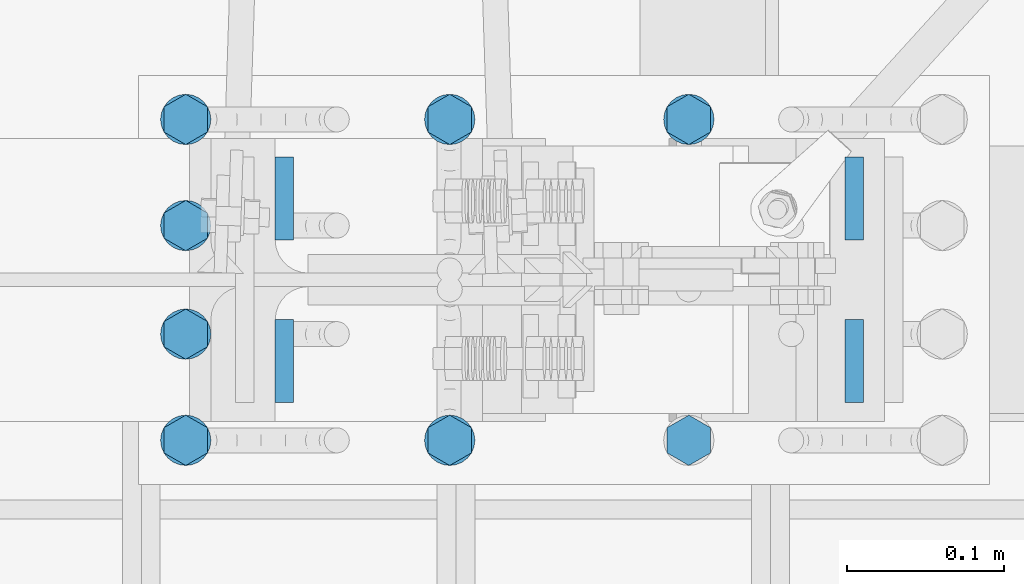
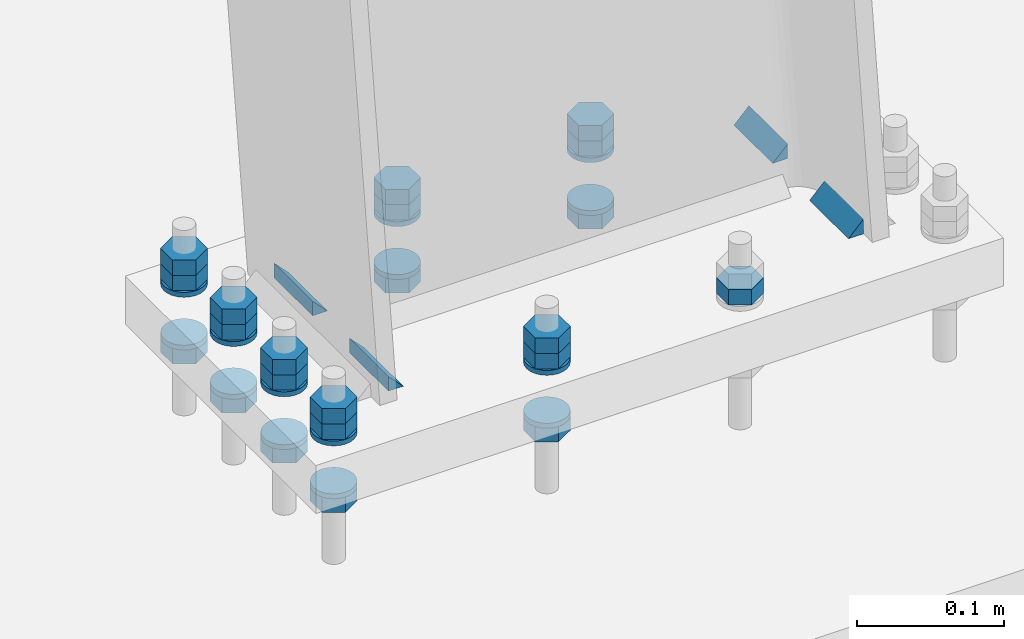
# One storey, part 26 of 72: 36 mechanical fasteners, 8 fasteners.
"""IFC4 building model written with IfcOpenShell, lengths in metres."""

import ifcopenshell
import ifcopenshell.guid

model = None  # the IFC model being written
_history = None  # IfcOwnerHistory: only IFC2X3 demands one
_inside = {}  # id of a spatial element -> (the spatial element, [elements in it])
_under = {}  # id of a project, library or spatial element -> (it, [spatial elements below it])
_declared = {}  # id of a project -> (the project, [libraries it declares])
_typed = {}  # id of a type object -> (the type object, [elements of that type])
_made_of = {}  # id of a material, layer set ... -> (it, [elements and type objects made of it])


def new_model(schema):
    """Start an empty IFC model of exactly this schema.

    Asked for "IFC4X3", IfcOpenShell would pick the latest addendum, in which some entities
    have other attributes; the version numbers below select the first issue.
    IFC2X3 requires an IfcOwnerHistory on every rooted entity: one is made here for all.
    """
    global model, _history
    if schema == "IFC4X3":
        model = ifcopenshell.file(schema_version=(4, 3, 0, 0))
    else:
        model = ifcopenshell.file(schema=schema)
    _inside.clear()
    _under.clear()
    _declared.clear()
    _typed.clear()
    _made_of.clear()
    _history = None
    if model.schema == "IFC2X3":
        org = make("IfcOrganization", Name="unknown")
        user = make(
            "IfcPersonAndOrganization",
            ThePerson=make("IfcPerson", FamilyName="unknown"),
            TheOrganization=org,
        )
        app = make(
            "IfcApplication",
            ApplicationDeveloper=org,
            Version="unknown",
            ApplicationFullName="unknown",
            ApplicationIdentifier="unknown",
        )
        _history = make(
            "IfcOwnerHistory",
            OwningUser=user,
            OwningApplication=app,
            ChangeAction="ADDED",
            CreationDate=0,
        )
    return model


def make(cls, **values):
    """One entity of the class cls with the attributes given. An attribute that is None is left unset."""
    return model.create_entity(
        cls, **{name: value for name, value in values.items() if value is not None}
    )


def rooted(cls, **values):
    """An entity with a GlobalId (a new one), such as an element, a storey or a relation."""
    return make(cls, GlobalId=ifcopenshell.guid.new(), OwnerHistory=_history, **values)


def si_unit(unit_type, name, prefix=None):
    """IfcSIUnit, for example si_unit("LENGTHUNIT", "METRE", prefix="MILLI")."""
    return make("IfcSIUnit", UnitType=unit_type, Prefix=prefix, Name=name)


def assignment(units):
    """IfcUnitAssignment: the units of a project."""
    return None if units is None else make("IfcUnitAssignment", Units=units)


def point(xyz):
    """IfcCartesianPoint."""
    return None if xyz is None else make("IfcCartesianPoint", Coordinates=xyz)


def direction(xyz):
    """IfcDirection."""
    return None if xyz is None else make("IfcDirection", DirectionRatios=xyz)


def frame(location, z_axis=None, x_axis=None):
    """IfcAxis2Placement3D, a coordinate frame: its origin and axes. An axis left out is left unset."""
    return make(
        "IfcAxis2Placement3D",
        Location=point(location),
        Axis=direction(z_axis),
        RefDirection=direction(x_axis),
    )


def origin_with_axes():
    """The frame at (0, 0, 0) with the z axis (0, 0, 1) and the x axis (1, 0, 0) written out."""
    return frame((0.0, 0.0, 0.0), z_axis=(0.0, 0.0, 1.0), x_axis=(1.0, 0.0, 0.0))


def place(relative_to, where):
    """IfcLocalPlacement: puts the frame where relative to a parent placement (None: the world)."""
    return make(
        "IfcLocalPlacement", PlacementRelTo=relative_to, RelativePlacement=where
    )


def context(
    kind, dimensions, precision=None, world=None, true_north=None, identifier=None
):
    """IfcGeometricRepresentationContext, for example the 3D "Model" context."""
    return make(
        "IfcGeometricRepresentationContext",
        ContextIdentifier=identifier,
        ContextType=kind,
        CoordinateSpaceDimension=dimensions,
        Precision=precision,
        WorldCoordinateSystem=world,
        TrueNorth=true_north,
    )


def project(units=None, contexts=None):
    """IfcProject with its units and contexts."""
    return rooted(
        "IfcProject",
        Name="project",
        RepresentationContexts=contexts,
        UnitsInContext=assignment(units),
    )


def spatial(cls, under=None, at=None, **own):
    """A site, building, storey or space (cls), placed at a placement, below another one or the project."""
    s = rooted(cls, ObjectPlacement=at, **own)
    if under is not None:
        _under.setdefault(under.id(), (under, []))[1].append(s)
    return s


def polyline(points):
    """IfcPolyline through the points."""
    return make("IfcPolyline", Points=[point(p) for p in points])


def outline(outer, holes=None, kind="AREA"):
    """IfcArbitraryClosedProfileDef: a profile drawn as a closed curve; with holes, ...WithVoids."""
    if holes is None:
        return make("IfcArbitraryClosedProfileDef", ProfileType=kind, OuterCurve=outer)
    return make(
        "IfcArbitraryProfileDefWithVoids",
        ProfileType=kind,
        OuterCurve=outer,
        InnerCurves=holes,
    )


def extrude(swept, where, along, depth):
    """IfcExtrudedAreaSolid: the profile swept, set in the frame where, extruded along a direction by depth."""
    return make(
        "IfcExtrudedAreaSolid",
        SweptArea=swept,
        Position=where,
        ExtrudedDirection=direction(along),
        Depth=depth,
    )


def shape(context_of_items, identifier, shape_type, items):
    """IfcShapeRepresentation: the items that make up one representation, for example the "Body"."""
    return make(
        "IfcShapeRepresentation",
        ContextOfItems=context_of_items,
        RepresentationIdentifier=identifier,
        RepresentationType=shape_type,
        Items=items,
    )


def made_of(thing, what):
    """Note that an element or type object is made of a material, layer set ...; save() writes the relation."""
    if what is not None:
        _made_of.setdefault(what.id(), (what, []))[1].append(thing)
    return thing


def type_object(cls, material=None, **own):
    """A type object (cls), such as IfcWallType, which elements share."""
    return made_of(rooted(cls, **own), material)


def element(
    cls,
    number,
    at=None,
    inside=None,
    cuts=None,
    type_object=None,
    material=None,
    context=None,
    identifier="Body",
    shape_type=None,
    held_by="IfcProductDefinitionShape",
    body=None,
    shapes=None,
    **own,
):
    """One element of the class cls, such as IfcWall. Its Tag is "e" and its number.

    at: its placement. inside: the storey or other place that contains it. cuts: it is an
    opening in that element (IfcRelVoidsElement). A single representation is given by context,
    identifier, shape_type and body (its items); several are given by shapes. held_by: the class
    of the entity that holds the representations. save() writes the other relations.
    """
    e = rooted(cls, Tag="e%d" % number, ObjectPlacement=at, **own)
    if body is not None:
        shapes = [shape(context, identifier, shape_type, body)]
    if shapes is not None:
        e.Representation = make(held_by, Representations=shapes)
    if inside is not None:
        _inside.setdefault(inside.id(), (inside, []))[1].append(e)
    if cuts is not None:
        rooted(
            "IfcRelVoidsElement", RelatingBuildingElement=cuts, RelatedOpeningElement=e
        )
    if type_object is not None:
        _typed.setdefault(type_object.id(), (type_object, []))[1].append(e)
    return made_of(e, material)


def aggregate(whole, parts):
    """IfcRelAggregates: a whole, such as a stair, and the parts it consists of."""
    return rooted("IfcRelAggregates", RelatingObject=whole, RelatedObjects=parts)


def save(model, path):
    """Write the relations noted so far, then the file.

    IfcRelAggregates (storeys below a building ...), IfcRelContainedInSpatialStructure (elements
    in a storey), IfcRelDefinesByType, IfcRelAssociatesMaterial and IfcRelDeclares: one each for
    every whole, place, type object, material and project.
    """
    for whole, parts in _under.values():
        aggregate(whole, parts)
    for where, things in _inside.values():
        rooted(
            "IfcRelContainedInSpatialStructure",
            RelatedElements=things,
            RelatingStructure=where,
        )
    for kind, things in _typed.values():
        rooted("IfcRelDefinesByType", RelatedObjects=things, RelatingType=kind)
    for what, things in _made_of.values():
        rooted("IfcRelAssociatesMaterial", RelatedObjects=things, RelatingMaterial=what)
    for by, libraries in _declared.values():
        rooted("IfcRelDeclares", RelatingContext=by, RelatedDefinitions=libraries)
    model.write(path)


model = new_model("IFC4")

# Units and contexts
model_context = context("Model", 3, precision=1e-05, world=origin_with_axes())
ifc_project = project(units=[si_unit("LENGTHUNIT", "METRE"), si_unit("AREAUNIT", "SQUARE_METRE"), si_unit("VOLUMEUNIT", "CUBIC_METRE"), si_unit("MASSUNIT", "GRAM", prefix="KILO"), si_unit("TIMEUNIT", "SECOND"), si_unit("PLANEANGLEUNIT", "RADIAN"), si_unit("SOLIDANGLEUNIT", "STERADIAN"), si_unit("THERMODYNAMICTEMPERATUREUNIT", "DEGREE_CELSIUS")], contexts=[model_context])

# Site, building, storey
placement_1 = place(None, origin_with_axes())
site = spatial("IfcSite", under=ifc_project, at=placement_1, Name="Italia", CompositionType="ELEMENT")
building = spatial("IfcBuilding", under=site, at=placement_1, Name="Pensilina", CompositionType="ELEMENT")
storey = spatial("IfcBuildingStorey", under=building, at=placement_1, Name="Storey 0", CompositionType="ELEMENT", Elevation=0.0)

# Fasteners
fastener_type_1 = type_object("IfcFastenerType", Name="Collegamento 0001_-196", PredefinedType="WELD")
placement_2 = place(placement_1, origin_with_axes())
fastener_1_placement = place(placement_2, origin_with_axes())
element("IfcFastener", 1, at=fastener_1_placement, inside=storey, type_object=fastener_type_1, Name="Collegamento 0001_-196", context=model_context, shape_type="SweptSolid", body=[
    extrude(outline(polyline([(0.0, 0.0, 0.0), (0.0118082, 0.0121734, 0.0), (0.0118082, 0.0, 0.0), (0.0, 0.0, 0.0)])), frame((1.10723, -0.02525, 0.103658), z_axis=(0.0, -1.0, 0.0), x_axis=(1.0, 0.0, 0.0)), (0.0, 0.0, 1.0), 0.0528),
])
fastener_type_2 = type_object("IfcFastenerType", Name="Collegamento 0001_-196", PredefinedType="WELD")
fastener_2_placement = place(placement_2, origin_with_axes())
element("IfcFastener", 2, at=fastener_2_placement, inside=storey, type_object=fastener_type_2, Name="Collegamento 0001_-196", context=model_context, shape_type="SweptSolid", body=[
    extrude(outline(polyline([(0.0, 0.0, 0.0), (0.0118082, 0.0121734, 0.0), (0.0118082, 0.0, 0.0), (0.0, 0.0, 0.0)])), frame((0.756865, -0.07805, 0.103658), z_axis=(0.0, 1.0, 0.0), x_axis=(-1.0, 0.0, 0.0)), (0.0, 0.0, 1.0), 0.0528),
])
fastener_type_3 = type_object("IfcFastenerType", Name="Collegamento 0001_-196", PredefinedType="WELD")
fastener_3_placement = place(placement_2, origin_with_axes())
element("IfcFastener", 3, at=fastener_3_placement, inside=storey, type_object=fastener_type_3, Name="Collegamento 0001_-196", context=model_context, shape_type="SweptSolid", body=[
    extrude(outline(polyline([(0.0, 0.0, 0.0), (0.0118082, 0.0121734, 0.0), (0.0118082, 0.0, 0.0), (0.0, 0.0, 0.0)])), frame((0.756865, 0.02525, 0.103658), z_axis=(0.0, 1.0, 0.0), x_axis=(-1.0, 0.0, 0.0)), (0.0, 0.0, 1.0), 0.0528),
])
fastener_type_4 = type_object("IfcFastenerType", Name="Collegamento 0001_-196", PredefinedType="WELD")
fastener_4_placement = place(placement_2, origin_with_axes())
element("IfcFastener", 4, at=fastener_4_placement, inside=storey, type_object=fastener_type_4, Name="Collegamento 0001_-196", context=model_context, shape_type="SweptSolid", body=[
    extrude(outline(polyline([(0.0, 0.0, 0.0), (0.0118082, 0.0121734, 0.0), (0.0118082, 0.0, 0.0), (0.0, 0.0, 0.0)])), frame((1.10723, 0.07805, 0.103658), z_axis=(0.0, -1.0, 0.0), x_axis=(1.0, 0.0, 0.0)), (0.0, 0.0, 1.0), 0.0528),
])
fastener_type_5 = type_object("IfcFastenerType", Name="Collegamento 0001_-196", PredefinedType="WELD")
fastener_5_placement = place(placement_2, origin_with_axes())
element("IfcFastener", 5, at=fastener_5_placement, inside=storey, type_object=fastener_type_5, Name="Collegamento 0001_-196", context=model_context, shape_type="SweptSolid", body=[
    extrude(outline(polyline([(0.0, 0.0, 0.0), (0.0118082, 0.0121734, 0.0), (0.0118082, 0.0, 0.0), (0.0, 0.0, 0.0)])), frame((1.10723, -0.02525, 0.103658), z_axis=(0.0, -1.0, 0.0), x_axis=(1.0, 0.0, 0.0)), (0.0, 0.0, 1.0), 0.0528),
])
fastener_type_6 = type_object("IfcFastenerType", Name="Collegamento 0001_-196", PredefinedType="WELD")
fastener_6_placement = place(placement_2, origin_with_axes())
element("IfcFastener", 6, at=fastener_6_placement, inside=storey, type_object=fastener_type_6, Name="Collegamento 0001_-196", context=model_context, shape_type="SweptSolid", body=[
    extrude(outline(polyline([(0.0, 0.0, 0.0), (0.0118082, 0.0121734, 0.0), (0.0118082, 0.0, 0.0), (0.0, 0.0, 0.0)])), frame((0.756865, -0.07805, 0.103658), z_axis=(0.0, 1.0, 0.0), x_axis=(-1.0, 0.0, 0.0)), (0.0, 0.0, 1.0), 0.0528),
])
fastener_type_7 = type_object("IfcFastenerType", Name="Collegamento 0001_-196", PredefinedType="WELD")
fastener_7_placement = place(placement_2, origin_with_axes())
element("IfcFastener", 7, at=fastener_7_placement, inside=storey, type_object=fastener_type_7, Name="Collegamento 0001_-196", context=model_context, shape_type="SweptSolid", body=[
    extrude(outline(polyline([(0.0, 0.0, 0.0), (0.0118082, 0.0121734, 0.0), (0.0118082, 0.0, 0.0), (0.0, 0.0, 0.0)])), frame((0.756865, 0.02525, 0.103658), z_axis=(0.0, 1.0, 0.0), x_axis=(-1.0, 0.0, 0.0)), (0.0, 0.0, 1.0), 0.0528),
])
fastener_type_8 = type_object("IfcFastenerType", Name="Collegamento 0001_-196", PredefinedType="WELD")
fastener_8_placement = place(placement_2, origin_with_axes())
element("IfcFastener", 8, at=fastener_8_placement, inside=storey, type_object=fastener_type_8, Name="Collegamento 0001_-196", context=model_context, shape_type="SweptSolid", body=[
    extrude(outline(polyline([(0.0, 0.0, 0.0), (0.0118082, 0.0121734, 0.0), (0.0118082, 0.0, 0.0), (0.0, 0.0, 0.0)])), frame((1.10723, 0.07805, 0.103658), z_axis=(0.0, -1.0, 0.0), x_axis=(1.0, 0.0, 0.0)), (0.0, 0.0, 1.0), 0.0528),
])

# Mechanical fasteners
mechanical_fastener_type_1 = type_object("IfcMechanicalFastenerType", Name="Collegamento 0001_-196", PredefinedType="BOLT")
mechanical_fastener_1_placement = place(placement_2, origin_with_axes())
element("IfcMechanicalFastener", 9, at=mechanical_fastener_1_placement, inside=storey, type_object=mechanical_fastener_type_1, Name="Collegamento 0001_-196", NominalDiameter=0.016, context=model_context, shape_type="SweptSolid", body=[
    extrude(outline(polyline([(0.0, 0.0, 0.0), (0.016, 0.0, 0.0), (0.024, -0.0138564, 0.0), (0.016, -0.0277128, 0.0), (0.0, -0.0277128, 0.0), (-0.008, -0.0138564, 0.0), (0.0, 0.0, 0.0)])), frame((0.674373, 0.094, 0.107708), z_axis=(0.0, 0.0, 1.0), x_axis=(0.0, 1.0, 0.0)), (0.0, 0.0, 1.0), 0.0128),
])
mechanical_fastener_type_2 = type_object("IfcMechanicalFastenerType", Name="Collegamento 0001_-196", PredefinedType="BOLT")
mechanical_fastener_2_placement = place(placement_2, origin_with_axes())
element("IfcMechanicalFastener", 10, at=mechanical_fastener_2_placement, inside=storey, type_object=mechanical_fastener_type_2, Name="Collegamento 0001_-196", NominalDiameter=0.016, context=model_context, shape_type="SweptSolid", body=[
    extrude(outline(polyline([(0.0, 0.0, 0.0), (0.016, 0.0, 0.0), (0.024, -0.0138564, 0.0), (0.016, -0.0277128, 0.0), (0.0, -0.0277128, 0.0), (-0.008, -0.0138564, 0.0), (0.0, 0.0, 0.0)])), frame((0.674373, 0.094, 0.120508), z_axis=(0.0, 0.0, 1.0), x_axis=(0.0, 1.0, 0.0)), (0.0, 0.0, 1.0), 0.0128),
])
mechanical_fastener_type_3 = type_object("IfcMechanicalFastenerType", Name="Collegamento 0001_-196", PredefinedType="BOLT")
mechanical_fastener_3_placement = place(placement_2, origin_with_axes())
element("IfcMechanicalFastener", 11, at=mechanical_fastener_3_placement, inside=storey, type_object=mechanical_fastener_type_3, Name="Collegamento 0001_-196", NominalDiameter=0.016, context=model_context, shape_type="SweptSolid", body=[
    extrude(outline(polyline([(0.0, 0.0, 0.0), (0.016, 0.0, 0.0), (0.024, -0.0138564, 0.0), (0.016, -0.0277128, 0.0), (0.0, -0.0277128, 0.0), (-0.008, -0.0138564, 0.0), (0.0, 0.0, 0.0)])), frame((0.674373, 0.094, 0.0469081), z_axis=(0.0, 0.0, 1.0), x_axis=(0.0, 1.0, 0.0)), (0.0, 0.0, 1.0), 0.0128),
])
mechanical_fastener_type_4 = type_object("IfcMechanicalFastenerType", Name="Collegamento 0001_-196", PredefinedType="BOLT")
mechanical_fastener_4_placement = place(placement_2, origin_with_axes())
element("IfcMechanicalFastener", 12, at=mechanical_fastener_4_placement, inside=storey, type_object=mechanical_fastener_type_4, Name="Collegamento 0001_-196", NominalDiameter=0.032, context=model_context, shape_type="SweptSolid", body=[
    extrude(outline(polyline([(0.0, 0.0, 0.0), (-0.000545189, -0.00414109, 0.0), (-0.00214359, -0.00800002, 0.0), (-0.0046863, -0.0113137, 0.0), (-0.008, -0.0138564, 0.0), (-0.0118589, -0.0154548, 0.0), (-0.016, -0.016, 0.0), (-0.0201411, -0.0154548, 0.0), (-0.024, -0.0138564, 0.0), (-0.0273137, -0.0113137, 0.0), (-0.0298564, -0.00800002, 0.0), (-0.0314548, -0.00414109, 0.0), (-0.032, 0.0, 0.0), (-0.0314548, 0.00414109, 0.0), (-0.0298564, 0.00800002, 0.0), (-0.0273137, 0.0113137, 0.0), (-0.024, 0.0138564, 0.0), (-0.0201411, 0.0154548, 0.0), (-0.016, 0.016, 0.0), (-0.0118589, 0.0154548, 0.0), (-0.008, 0.0138564, 0.0), (-0.0046863, 0.0113137, 0.0), (-0.00214359, 0.00800002, 0.0), (-0.000545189, 0.00414109, 0.0), (0.0, 0.0, 0.0)])), frame((0.68823, 0.118, 0.103708), z_axis=(0.0, 0.0, 1.0), x_axis=(0.0, 1.0, 0.0)), (0.0, 0.0, 1.0), 0.004),
])
mechanical_fastener_type_5 = type_object("IfcMechanicalFastenerType", Name="Collegamento 0001_-196", PredefinedType="BOLT")
mechanical_fastener_5_placement = place(placement_2, origin_with_axes())
element("IfcMechanicalFastener", 13, at=mechanical_fastener_5_placement, inside=storey, type_object=mechanical_fastener_type_5, Name="Collegamento 0001_-196", NominalDiameter=0.032, context=model_context, shape_type="SweptSolid", body=[
    extrude(outline(polyline([(0.0, 0.0, 0.0), (-0.000545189, -0.00414109, 0.0), (-0.00214359, -0.00800002, 0.0), (-0.0046863, -0.0113137, 0.0), (-0.008, -0.0138564, 0.0), (-0.0118589, -0.0154548, 0.0), (-0.016, -0.016, 0.0), (-0.0201411, -0.0154548, 0.0), (-0.024, -0.0138564, 0.0), (-0.0273137, -0.0113137, 0.0), (-0.0298564, -0.00800002, 0.0), (-0.0314548, -0.00414109, 0.0), (-0.032, 0.0, 0.0), (-0.0314548, 0.00414109, 0.0), (-0.0298564, 0.00800002, 0.0), (-0.0273137, 0.0113137, 0.0), (-0.024, 0.0138564, 0.0), (-0.0201411, 0.0154548, 0.0), (-0.016, 0.016, 0.0), (-0.0118589, 0.0154548, 0.0), (-0.008, 0.0138564, 0.0), (-0.0046863, 0.0113137, 0.0), (-0.00214359, 0.00800002, 0.0), (-0.000545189, 0.00414109, 0.0), (0.0, 0.0, 0.0)])), frame((0.68823, 0.118, 0.0597081), z_axis=(0.0, 0.0, 1.0), x_axis=(0.0, 1.0, 0.0)), (0.0, 0.0, 1.0), 0.004),
])
mechanical_fastener_type_6 = type_object("IfcMechanicalFastenerType", Name="Collegamento 0001_-196", PredefinedType="BOLT")
mechanical_fastener_6_placement = place(placement_2, origin_with_axes())
element("IfcMechanicalFastener", 14, at=mechanical_fastener_6_placement, inside=storey, type_object=mechanical_fastener_type_6, Name="Collegamento 0001_-196", NominalDiameter=0.016, context=model_context, shape_type="SweptSolid", body=[
    extrude(outline(polyline([(0.0, 0.0, 0.0), (0.016, 0.0, 0.0), (0.024, -0.0138564, 0.0), (0.016, -0.0277128, 0.0), (0.0, -0.0277128, 0.0), (-0.008, -0.0138564, 0.0), (0.0, 0.0, 0.0)])), frame((0.674373, 0.0265, 0.107708), z_axis=(0.0, 0.0, 1.0), x_axis=(0.0, 1.0, 0.0)), (0.0, 0.0, 1.0), 0.0128),
])
mechanical_fastener_type_7 = type_object("IfcMechanicalFastenerType", Name="Collegamento 0001_-196", PredefinedType="BOLT")
mechanical_fastener_7_placement = place(placement_2, origin_with_axes())
element("IfcMechanicalFastener", 15, at=mechanical_fastener_7_placement, inside=storey, type_object=mechanical_fastener_type_7, Name="Collegamento 0001_-196", NominalDiameter=0.016, context=model_context, shape_type="SweptSolid", body=[
    extrude(outline(polyline([(0.0, 0.0, 0.0), (0.016, 0.0, 0.0), (0.024, -0.0138564, 0.0), (0.016, -0.0277128, 0.0), (0.0, -0.0277128, 0.0), (-0.008, -0.0138564, 0.0), (0.0, 0.0, 0.0)])), frame((0.674373, 0.0265, 0.120508), z_axis=(0.0, 0.0, 1.0), x_axis=(0.0, 1.0, 0.0)), (0.0, 0.0, 1.0), 0.0128),
])
mechanical_fastener_type_8 = type_object("IfcMechanicalFastenerType", Name="Collegamento 0001_-196", PredefinedType="BOLT")
mechanical_fastener_8_placement = place(placement_2, origin_with_axes())
element("IfcMechanicalFastener", 16, at=mechanical_fastener_8_placement, inside=storey, type_object=mechanical_fastener_type_8, Name="Collegamento 0001_-196", NominalDiameter=0.016, context=model_context, shape_type="SweptSolid", body=[
    extrude(outline(polyline([(0.0, 0.0, 0.0), (0.016, 0.0, 0.0), (0.024, -0.0138564, 0.0), (0.016, -0.0277128, 0.0), (0.0, -0.0277128, 0.0), (-0.008, -0.0138564, 0.0), (0.0, 0.0, 0.0)])), frame((0.674373, 0.0265, 0.0469081), z_axis=(0.0, 0.0, 1.0), x_axis=(0.0, 1.0, 0.0)), (0.0, 0.0, 1.0), 0.0128),
])
mechanical_fastener_type_9 = type_object("IfcMechanicalFastenerType", Name="Collegamento 0001_-196", PredefinedType="BOLT")
mechanical_fastener_9_placement = place(placement_2, origin_with_axes())
element("IfcMechanicalFastener", 17, at=mechanical_fastener_9_placement, inside=storey, type_object=mechanical_fastener_type_9, Name="Collegamento 0001_-196", NominalDiameter=0.032, context=model_context, shape_type="SweptSolid", body=[
    extrude(outline(polyline([(0.0, 0.0, 0.0), (-0.000545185, -0.00414109, 0.0), (-0.00214359, -0.00800002, 0.0), (-0.00468629, -0.0113137, 0.0), (-0.008, -0.0138564, 0.0), (-0.0118589, -0.0154548, 0.0), (-0.016, -0.016, 0.0), (-0.0201411, -0.0154548, 0.0), (-0.024, -0.0138564, 0.0), (-0.0273137, -0.0113137, 0.0), (-0.0298564, -0.00800002, 0.0), (-0.0314548, -0.00414109, 0.0), (-0.032, 0.0, 0.0), (-0.0314548, 0.00414109, 0.0), (-0.0298564, 0.00800002, 0.0), (-0.0273137, 0.0113137, 0.0), (-0.024, 0.0138564, 0.0), (-0.0201411, 0.0154548, 0.0), (-0.016, 0.016, 0.0), (-0.0118589, 0.0154548, 0.0), (-0.008, 0.0138564, 0.0), (-0.00468629, 0.0113137, 0.0), (-0.00214359, 0.00800002, 0.0), (-0.000545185, 0.00414109, 0.0), (0.0, 0.0, 0.0)])), frame((0.68823, 0.0505, 0.103708), z_axis=(0.0, 0.0, 1.0), x_axis=(0.0, 1.0, 0.0)), (0.0, 0.0, 1.0), 0.004),
])
mechanical_fastener_type_10 = type_object("IfcMechanicalFastenerType", Name="Collegamento 0001_-196", PredefinedType="BOLT")
mechanical_fastener_10_placement = place(placement_2, origin_with_axes())
element("IfcMechanicalFastener", 18, at=mechanical_fastener_10_placement, inside=storey, type_object=mechanical_fastener_type_10, Name="Collegamento 0001_-196", NominalDiameter=0.032, context=model_context, shape_type="SweptSolid", body=[
    extrude(outline(polyline([(0.0, 0.0, 0.0), (-0.000545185, -0.00414109, 0.0), (-0.00214359, -0.00800002, 0.0), (-0.00468629, -0.0113137, 0.0), (-0.008, -0.0138564, 0.0), (-0.0118589, -0.0154548, 0.0), (-0.016, -0.016, 0.0), (-0.0201411, -0.0154548, 0.0), (-0.024, -0.0138564, 0.0), (-0.0273137, -0.0113137, 0.0), (-0.0298564, -0.00800002, 0.0), (-0.0314548, -0.00414109, 0.0), (-0.032, 0.0, 0.0), (-0.0314548, 0.00414109, 0.0), (-0.0298564, 0.00800002, 0.0), (-0.0273137, 0.0113137, 0.0), (-0.024, 0.0138564, 0.0), (-0.0201411, 0.0154548, 0.0), (-0.016, 0.016, 0.0), (-0.0118589, 0.0154548, 0.0), (-0.008, 0.0138564, 0.0), (-0.00468629, 0.0113137, 0.0), (-0.00214359, 0.00800002, 0.0), (-0.000545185, 0.00414109, 0.0), (0.0, 0.0, 0.0)])), frame((0.68823, 0.0505, 0.0597081), z_axis=(0.0, 0.0, 1.0), x_axis=(0.0, 1.0, 0.0)), (0.0, 0.0, 1.0), 0.004),
])
mechanical_fastener_type_11 = type_object("IfcMechanicalFastenerType", Name="Collegamento 0001_-196", PredefinedType="BOLT")
mechanical_fastener_11_placement = place(placement_2, origin_with_axes())
element("IfcMechanicalFastener", 19, at=mechanical_fastener_11_placement, inside=storey, type_object=mechanical_fastener_type_11, Name="Collegamento 0001_-196", NominalDiameter=0.016, context=model_context, shape_type="SweptSolid", body=[
    extrude(outline(polyline([(0.0, 0.0, 0.0), (0.016, 0.0, 0.0), (0.024, -0.0138564, 0.0), (0.016, -0.0277128, 0.0), (0.0, -0.0277128, 0.0), (-0.008, -0.0138564, 0.0), (0.0, 0.0, 0.0)])), frame((0.674373, -0.0425, 0.107708), z_axis=(0.0, 0.0, 1.0), x_axis=(0.0, 1.0, 0.0)), (0.0, 0.0, 1.0), 0.0128),
])
mechanical_fastener_type_12 = type_object("IfcMechanicalFastenerType", Name="Collegamento 0001_-196", PredefinedType="BOLT")
mechanical_fastener_12_placement = place(placement_2, origin_with_axes())
element("IfcMechanicalFastener", 20, at=mechanical_fastener_12_placement, inside=storey, type_object=mechanical_fastener_type_12, Name="Collegamento 0001_-196", NominalDiameter=0.016, context=model_context, shape_type="SweptSolid", body=[
    extrude(outline(polyline([(0.0, 0.0, 0.0), (0.016, 0.0, 0.0), (0.024, -0.0138564, 0.0), (0.016, -0.0277128, 0.0), (0.0, -0.0277128, 0.0), (-0.008, -0.0138564, 0.0), (0.0, 0.0, 0.0)])), frame((0.674373, -0.0425, 0.120508), z_axis=(0.0, 0.0, 1.0), x_axis=(0.0, 1.0, 0.0)), (0.0, 0.0, 1.0), 0.0128),
])
mechanical_fastener_type_13 = type_object("IfcMechanicalFastenerType", Name="Collegamento 0001_-196", PredefinedType="BOLT")
mechanical_fastener_13_placement = place(placement_2, origin_with_axes())
element("IfcMechanicalFastener", 21, at=mechanical_fastener_13_placement, inside=storey, type_object=mechanical_fastener_type_13, Name="Collegamento 0001_-196", NominalDiameter=0.016, context=model_context, shape_type="SweptSolid", body=[
    extrude(outline(polyline([(0.0, 0.0, 0.0), (0.016, 0.0, 0.0), (0.024, -0.0138564, 0.0), (0.016, -0.0277128, 0.0), (0.0, -0.0277128, 0.0), (-0.008, -0.0138564, 0.0), (0.0, 0.0, 0.0)])), frame((0.674373, -0.0425, 0.0469081), z_axis=(0.0, 0.0, 1.0), x_axis=(0.0, 1.0, 0.0)), (0.0, 0.0, 1.0), 0.0128),
])
mechanical_fastener_type_14 = type_object("IfcMechanicalFastenerType", Name="Collegamento 0001_-196", PredefinedType="BOLT")
mechanical_fastener_14_placement = place(placement_2, origin_with_axes())
element("IfcMechanicalFastener", 22, at=mechanical_fastener_14_placement, inside=storey, type_object=mechanical_fastener_type_14, Name="Collegamento 0001_-196", NominalDiameter=0.032, context=model_context, shape_type="SweptSolid", body=[
    extrude(outline(polyline([(0.0, 0.0, 0.0), (-0.000545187, -0.00414109, 0.0), (-0.00214359, -0.00800002, 0.0), (-0.00468629, -0.0113137, 0.0), (-0.008, -0.0138564, 0.0), (-0.0118589, -0.0154548, 0.0), (-0.016, -0.016, 0.0), (-0.0201411, -0.0154548, 0.0), (-0.024, -0.0138564, 0.0), (-0.0273137, -0.0113137, 0.0), (-0.0298564, -0.00800002, 0.0), (-0.0314548, -0.00414109, 0.0), (-0.032, 0.0, 0.0), (-0.0314548, 0.00414109, 0.0), (-0.0298564, 0.00800002, 0.0), (-0.0273137, 0.0113137, 0.0), (-0.024, 0.0138564, 0.0), (-0.0201411, 0.0154548, 0.0), (-0.016, 0.016, 0.0), (-0.0118589, 0.0154548, 0.0), (-0.008, 0.0138564, 0.0), (-0.00468629, 0.0113137, 0.0), (-0.00214359, 0.00800002, 0.0), (-0.000545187, 0.00414109, 0.0), (0.0, 0.0, 0.0)])), frame((0.68823, -0.0185, 0.103708), z_axis=(0.0, 0.0, 1.0), x_axis=(0.0, 1.0, 0.0)), (0.0, 0.0, 1.0), 0.004),
])
mechanical_fastener_type_15 = type_object("IfcMechanicalFastenerType", Name="Collegamento 0001_-196", PredefinedType="BOLT")
mechanical_fastener_15_placement = place(placement_2, origin_with_axes())
element("IfcMechanicalFastener", 23, at=mechanical_fastener_15_placement, inside=storey, type_object=mechanical_fastener_type_15, Name="Collegamento 0001_-196", NominalDiameter=0.032, context=model_context, shape_type="SweptSolid", body=[
    extrude(outline(polyline([(0.0, 0.0, 0.0), (-0.000545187, -0.00414109, 0.0), (-0.00214359, -0.00800002, 0.0), (-0.00468629, -0.0113137, 0.0), (-0.008, -0.0138564, 0.0), (-0.0118589, -0.0154548, 0.0), (-0.016, -0.016, 0.0), (-0.0201411, -0.0154548, 0.0), (-0.024, -0.0138564, 0.0), (-0.0273137, -0.0113137, 0.0), (-0.0298564, -0.00800002, 0.0), (-0.0314548, -0.00414109, 0.0), (-0.032, 0.0, 0.0), (-0.0314548, 0.00414109, 0.0), (-0.0298564, 0.00800002, 0.0), (-0.0273137, 0.0113137, 0.0), (-0.024, 0.0138564, 0.0), (-0.0201411, 0.0154548, 0.0), (-0.016, 0.016, 0.0), (-0.0118589, 0.0154548, 0.0), (-0.008, 0.0138564, 0.0), (-0.00468629, 0.0113137, 0.0), (-0.00214359, 0.00800002, 0.0), (-0.000545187, 0.00414109, 0.0), (0.0, 0.0, 0.0)])), frame((0.68823, -0.0185, 0.0597081), z_axis=(0.0, 0.0, 1.0), x_axis=(0.0, 1.0, 0.0)), (0.0, 0.0, 1.0), 0.004),
])
mechanical_fastener_type_16 = type_object("IfcMechanicalFastenerType", Name="Collegamento 0001_-196", PredefinedType="BOLT")
mechanical_fastener_16_placement = place(placement_2, origin_with_axes())
element("IfcMechanicalFastener", 24, at=mechanical_fastener_16_placement, inside=storey, type_object=mechanical_fastener_type_16, Name="Collegamento 0001_-196", NominalDiameter=0.016, context=model_context, shape_type="SweptSolid", body=[
    extrude(outline(polyline([(0.0, 0.0, 0.0), (0.016, 0.0, 0.0), (0.024, -0.0138564, 0.0), (0.016, -0.0277128, 0.0), (0.0, -0.0277128, 0.0), (-0.008, -0.0138564, 0.0), (0.0, 0.0, 0.0)])), frame((0.674373, -0.11, 0.107708), z_axis=(0.0, 0.0, 1.0), x_axis=(0.0, 1.0, 0.0)), (0.0, 0.0, 1.0), 0.0128),
])
mechanical_fastener_type_17 = type_object("IfcMechanicalFastenerType", Name="Collegamento 0001_-196", PredefinedType="BOLT")
mechanical_fastener_17_placement = place(placement_2, origin_with_axes())
element("IfcMechanicalFastener", 25, at=mechanical_fastener_17_placement, inside=storey, type_object=mechanical_fastener_type_17, Name="Collegamento 0001_-196", NominalDiameter=0.016, context=model_context, shape_type="SweptSolid", body=[
    extrude(outline(polyline([(0.0, 0.0, 0.0), (0.016, 0.0, 0.0), (0.024, -0.0138564, 0.0), (0.016, -0.0277128, 0.0), (0.0, -0.0277128, 0.0), (-0.008, -0.0138564, 0.0), (0.0, 0.0, 0.0)])), frame((0.674373, -0.11, 0.120508), z_axis=(0.0, 0.0, 1.0), x_axis=(0.0, 1.0, 0.0)), (0.0, 0.0, 1.0), 0.0128),
])
mechanical_fastener_type_18 = type_object("IfcMechanicalFastenerType", Name="Collegamento 0001_-196", PredefinedType="BOLT")
mechanical_fastener_18_placement = place(placement_2, origin_with_axes())
element("IfcMechanicalFastener", 26, at=mechanical_fastener_18_placement, inside=storey, type_object=mechanical_fastener_type_18, Name="Collegamento 0001_-196", NominalDiameter=0.016, context=model_context, shape_type="SweptSolid", body=[
    extrude(outline(polyline([(0.0, 0.0, 0.0), (0.016, 0.0, 0.0), (0.024, -0.0138564, 0.0), (0.016, -0.0277128, 0.0), (0.0, -0.0277128, 0.0), (-0.008, -0.0138564, 0.0), (0.0, 0.0, 0.0)])), frame((0.674373, -0.11, 0.0469081), z_axis=(0.0, 0.0, 1.0), x_axis=(0.0, 1.0, 0.0)), (0.0, 0.0, 1.0), 0.0128),
])
mechanical_fastener_type_19 = type_object("IfcMechanicalFastenerType", Name="Collegamento 0001_-196", PredefinedType="BOLT")
mechanical_fastener_19_placement = place(placement_2, origin_with_axes())
element("IfcMechanicalFastener", 27, at=mechanical_fastener_19_placement, inside=storey, type_object=mechanical_fastener_type_19, Name="Collegamento 0001_-196", NominalDiameter=0.032, context=model_context, shape_type="SweptSolid", body=[
    extrude(outline(polyline([(0.0, 0.0, 0.0), (-0.000545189, -0.00414109, 0.0), (-0.00214359, -0.00800002, 0.0), (-0.0046863, -0.0113137, 0.0), (-0.008, -0.0138564, 0.0), (-0.0118589, -0.0154548, 0.0), (-0.016, -0.016, 0.0), (-0.0201411, -0.0154548, 0.0), (-0.024, -0.0138564, 0.0), (-0.0273137, -0.0113137, 0.0), (-0.0298564, -0.00800002, 0.0), (-0.0314548, -0.00414109, 0.0), (-0.032, 0.0, 0.0), (-0.0314548, 0.00414109, 0.0), (-0.0298564, 0.00800002, 0.0), (-0.0273137, 0.0113137, 0.0), (-0.024, 0.0138564, 0.0), (-0.0201411, 0.0154548, 0.0), (-0.016, 0.016, 0.0), (-0.0118589, 0.0154548, 0.0), (-0.008, 0.0138564, 0.0), (-0.0046863, 0.0113137, 0.0), (-0.00214359, 0.00800002, 0.0), (-0.000545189, 0.00414109, 0.0), (0.0, 0.0, 0.0)])), frame((0.68823, -0.086, 0.103708), z_axis=(0.0, 0.0, 1.0), x_axis=(0.0, 1.0, 0.0)), (0.0, 0.0, 1.0), 0.004),
])
mechanical_fastener_type_20 = type_object("IfcMechanicalFastenerType", Name="Collegamento 0001_-196", PredefinedType="BOLT")
mechanical_fastener_20_placement = place(placement_2, origin_with_axes())
element("IfcMechanicalFastener", 28, at=mechanical_fastener_20_placement, inside=storey, type_object=mechanical_fastener_type_20, Name="Collegamento 0001_-196", NominalDiameter=0.032, context=model_context, shape_type="SweptSolid", body=[
    extrude(outline(polyline([(0.0, 0.0, 0.0), (-0.000545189, -0.00414109, 0.0), (-0.00214359, -0.00800002, 0.0), (-0.0046863, -0.0113137, 0.0), (-0.008, -0.0138564, 0.0), (-0.0118589, -0.0154548, 0.0), (-0.016, -0.016, 0.0), (-0.0201411, -0.0154548, 0.0), (-0.024, -0.0138564, 0.0), (-0.0273137, -0.0113137, 0.0), (-0.0298564, -0.00800002, 0.0), (-0.0314548, -0.00414109, 0.0), (-0.032, 0.0, 0.0), (-0.0314548, 0.00414109, 0.0), (-0.0298564, 0.00800002, 0.0), (-0.0273137, 0.0113137, 0.0), (-0.024, 0.0138564, 0.0), (-0.0201411, 0.0154548, 0.0), (-0.016, 0.016, 0.0), (-0.0118589, 0.0154548, 0.0), (-0.008, 0.0138564, 0.0), (-0.0046863, 0.0113137, 0.0), (-0.00214359, 0.00800002, 0.0), (-0.000545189, 0.00414109, 0.0), (0.0, 0.0, 0.0)])), frame((0.68823, -0.086, 0.0597081), z_axis=(0.0, 0.0, 1.0), x_axis=(0.0, 1.0, 0.0)), (0.0, 0.0, 1.0), 0.004),
])
mechanical_fastener_type_21 = type_object("IfcMechanicalFastenerType", Name="Collegamento 0001_-196", PredefinedType="BOLT")
mechanical_fastener_21_placement = place(placement_2, origin_with_axes())
element("IfcMechanicalFastener", 29, at=mechanical_fastener_21_placement, inside=storey, type_object=mechanical_fastener_type_21, Name="Collegamento 0001_-196", NominalDiameter=0.016, context=model_context, shape_type="SweptSolid", body=[
    extrude(outline(polyline([(0.0, 0.0, 0.0), (0.016, 0.0, 0.0), (0.024, -0.0138564, 0.0), (0.016, -0.0277128, 0.0), (0.0, -0.0277128, 0.0), (-0.008, -0.0138564, 0.0), (0.0, 0.0, 0.0)])), frame((0.84219, 0.094, 0.107708), z_axis=(0.0, 0.0, 1.0), x_axis=(0.0, 1.0, 0.0)), (0.0, 0.0, 1.0), 0.0128),
])
mechanical_fastener_type_22 = type_object("IfcMechanicalFastenerType", Name="Collegamento 0001_-196", PredefinedType="BOLT")
mechanical_fastener_22_placement = place(placement_2, origin_with_axes())
element("IfcMechanicalFastener", 30, at=mechanical_fastener_22_placement, inside=storey, type_object=mechanical_fastener_type_22, Name="Collegamento 0001_-196", NominalDiameter=0.016, context=model_context, shape_type="SweptSolid", body=[
    extrude(outline(polyline([(0.0, 0.0, 0.0), (0.016, 0.0, 0.0), (0.024, -0.0138564, 0.0), (0.016, -0.0277128, 0.0), (0.0, -0.0277128, 0.0), (-0.008, -0.0138564, 0.0), (0.0, 0.0, 0.0)])), frame((0.84219, 0.094, 0.120508), z_axis=(0.0, 0.0, 1.0), x_axis=(0.0, 1.0, 0.0)), (0.0, 0.0, 1.0), 0.0128),
])
mechanical_fastener_type_23 = type_object("IfcMechanicalFastenerType", Name="Collegamento 0001_-196", PredefinedType="BOLT")
mechanical_fastener_23_placement = place(placement_2, origin_with_axes())
element("IfcMechanicalFastener", 31, at=mechanical_fastener_23_placement, inside=storey, type_object=mechanical_fastener_type_23, Name="Collegamento 0001_-196", NominalDiameter=0.016, context=model_context, shape_type="SweptSolid", body=[
    extrude(outline(polyline([(0.0, 0.0, 0.0), (0.016, 0.0, 0.0), (0.024, -0.0138564, 0.0), (0.016, -0.0277128, 0.0), (0.0, -0.0277128, 0.0), (-0.008, -0.0138564, 0.0), (0.0, 0.0, 0.0)])), frame((0.84219, 0.094, 0.0469081), z_axis=(0.0, 0.0, 1.0), x_axis=(0.0, 1.0, 0.0)), (0.0, 0.0, 1.0), 0.0128),
])
mechanical_fastener_type_24 = type_object("IfcMechanicalFastenerType", Name="Collegamento 0001_-196", PredefinedType="BOLT")
mechanical_fastener_24_placement = place(placement_2, origin_with_axes())
element("IfcMechanicalFastener", 32, at=mechanical_fastener_24_placement, inside=storey, type_object=mechanical_fastener_type_24, Name="Collegamento 0001_-196", NominalDiameter=0.032, context=model_context, shape_type="SweptSolid", body=[
    extrude(outline(polyline([(0.0, 0.0, 0.0), (-0.000545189, -0.00414109, 0.0), (-0.00214359, -0.00800002, 0.0), (-0.0046863, -0.0113137, 0.0), (-0.008, -0.0138564, 0.0), (-0.0118589, -0.0154548, 0.0), (-0.016, -0.016, 0.0), (-0.0201411, -0.0154548, 0.0), (-0.024, -0.0138564, 0.0), (-0.0273137, -0.0113137, 0.0), (-0.0298564, -0.00800002, 0.0), (-0.0314548, -0.00414109, 0.0), (-0.032, 0.0, 0.0), (-0.0314548, 0.00414109, 0.0), (-0.0298564, 0.00800002, 0.0), (-0.0273137, 0.0113137, 0.0), (-0.024, 0.0138564, 0.0), (-0.0201411, 0.0154548, 0.0), (-0.016, 0.016, 0.0), (-0.0118589, 0.0154548, 0.0), (-0.008, 0.0138564, 0.0), (-0.0046863, 0.0113137, 0.0), (-0.00214359, 0.00800002, 0.0), (-0.000545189, 0.00414109, 0.0), (0.0, 0.0, 0.0)])), frame((0.856047, 0.118, 0.103708), z_axis=(0.0, 0.0, 1.0), x_axis=(0.0, 1.0, 0.0)), (0.0, 0.0, 1.0), 0.004),
])
mechanical_fastener_type_25 = type_object("IfcMechanicalFastenerType", Name="Collegamento 0001_-196", PredefinedType="BOLT")
mechanical_fastener_25_placement = place(placement_2, origin_with_axes())
element("IfcMechanicalFastener", 33, at=mechanical_fastener_25_placement, inside=storey, type_object=mechanical_fastener_type_25, Name="Collegamento 0001_-196", NominalDiameter=0.032, context=model_context, shape_type="SweptSolid", body=[
    extrude(outline(polyline([(0.0, 0.0, 0.0), (-0.000545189, -0.00414109, 0.0), (-0.00214359, -0.00800002, 0.0), (-0.0046863, -0.0113137, 0.0), (-0.008, -0.0138564, 0.0), (-0.0118589, -0.0154548, 0.0), (-0.016, -0.016, 0.0), (-0.0201411, -0.0154548, 0.0), (-0.024, -0.0138564, 0.0), (-0.0273137, -0.0113137, 0.0), (-0.0298564, -0.00800002, 0.0), (-0.0314548, -0.00414109, 0.0), (-0.032, 0.0, 0.0), (-0.0314548, 0.00414109, 0.0), (-0.0298564, 0.00800002, 0.0), (-0.0273137, 0.0113137, 0.0), (-0.024, 0.0138564, 0.0), (-0.0201411, 0.0154548, 0.0), (-0.016, 0.016, 0.0), (-0.0118589, 0.0154548, 0.0), (-0.008, 0.0138564, 0.0), (-0.0046863, 0.0113137, 0.0), (-0.00214359, 0.00800002, 0.0), (-0.000545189, 0.00414109, 0.0), (0.0, 0.0, 0.0)])), frame((0.856047, 0.118, 0.0597081), z_axis=(0.0, 0.0, 1.0), x_axis=(0.0, 1.0, 0.0)), (0.0, 0.0, 1.0), 0.004),
])
mechanical_fastener_type_26 = type_object("IfcMechanicalFastenerType", Name="Collegamento 0001_-196", PredefinedType="BOLT")
mechanical_fastener_26_placement = place(placement_2, origin_with_axes())
element("IfcMechanicalFastener", 34, at=mechanical_fastener_26_placement, inside=storey, type_object=mechanical_fastener_type_26, Name="Collegamento 0001_-196", NominalDiameter=0.016, context=model_context, shape_type="SweptSolid", body=[
    extrude(outline(polyline([(0.0, 0.0, 0.0), (0.016, 0.0, 0.0), (0.024, -0.0138564, 0.0), (0.016, -0.0277128, 0.0), (0.0, -0.0277128, 0.0), (-0.008, -0.0138564, 0.0), (0.0, 0.0, 0.0)])), frame((0.84219, -0.11, 0.107708), z_axis=(0.0, 0.0, 1.0), x_axis=(0.0, 1.0, 0.0)), (0.0, 0.0, 1.0), 0.0128),
])
mechanical_fastener_type_27 = type_object("IfcMechanicalFastenerType", Name="Collegamento 0001_-196", PredefinedType="BOLT")
mechanical_fastener_27_placement = place(placement_2, origin_with_axes())
element("IfcMechanicalFastener", 35, at=mechanical_fastener_27_placement, inside=storey, type_object=mechanical_fastener_type_27, Name="Collegamento 0001_-196", NominalDiameter=0.016, context=model_context, shape_type="SweptSolid", body=[
    extrude(outline(polyline([(0.0, 0.0, 0.0), (0.016, 0.0, 0.0), (0.024, -0.0138564, 0.0), (0.016, -0.0277128, 0.0), (0.0, -0.0277128, 0.0), (-0.008, -0.0138564, 0.0), (0.0, 0.0, 0.0)])), frame((0.84219, -0.11, 0.120508), z_axis=(0.0, 0.0, 1.0), x_axis=(0.0, 1.0, 0.0)), (0.0, 0.0, 1.0), 0.0128),
])
mechanical_fastener_type_28 = type_object("IfcMechanicalFastenerType", Name="Collegamento 0001_-196", PredefinedType="BOLT")
mechanical_fastener_28_placement = place(placement_2, origin_with_axes())
element("IfcMechanicalFastener", 36, at=mechanical_fastener_28_placement, inside=storey, type_object=mechanical_fastener_type_28, Name="Collegamento 0001_-196", NominalDiameter=0.016, context=model_context, shape_type="SweptSolid", body=[
    extrude(outline(polyline([(0.0, 0.0, 0.0), (0.016, 0.0, 0.0), (0.024, -0.0138564, 0.0), (0.016, -0.0277128, 0.0), (0.0, -0.0277128, 0.0), (-0.008, -0.0138564, 0.0), (0.0, 0.0, 0.0)])), frame((0.84219, -0.11, 0.0469081), z_axis=(0.0, 0.0, 1.0), x_axis=(0.0, 1.0, 0.0)), (0.0, 0.0, 1.0), 0.0128),
])
mechanical_fastener_type_29 = type_object("IfcMechanicalFastenerType", Name="Collegamento 0001_-196", PredefinedType="BOLT")
mechanical_fastener_29_placement = place(placement_2, origin_with_axes())
element("IfcMechanicalFastener", 37, at=mechanical_fastener_29_placement, inside=storey, type_object=mechanical_fastener_type_29, Name="Collegamento 0001_-196", NominalDiameter=0.032, context=model_context, shape_type="SweptSolid", body=[
    extrude(outline(polyline([(0.0, 0.0, 0.0), (-0.000545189, -0.00414109, 0.0), (-0.00214359, -0.00800002, 0.0), (-0.0046863, -0.0113137, 0.0), (-0.008, -0.0138564, 0.0), (-0.0118589, -0.0154548, 0.0), (-0.016, -0.016, 0.0), (-0.0201411, -0.0154548, 0.0), (-0.024, -0.0138564, 0.0), (-0.0273137, -0.0113137, 0.0), (-0.0298564, -0.00800002, 0.0), (-0.0314548, -0.00414109, 0.0), (-0.032, 0.0, 0.0), (-0.0314548, 0.00414109, 0.0), (-0.0298564, 0.00800002, 0.0), (-0.0273137, 0.0113137, 0.0), (-0.024, 0.0138564, 0.0), (-0.0201411, 0.0154548, 0.0), (-0.016, 0.016, 0.0), (-0.0118589, 0.0154548, 0.0), (-0.008, 0.0138564, 0.0), (-0.0046863, 0.0113137, 0.0), (-0.00214359, 0.00800002, 0.0), (-0.000545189, 0.00414109, 0.0), (0.0, 0.0, 0.0)])), frame((0.856047, -0.086, 0.103708), z_axis=(0.0, 0.0, 1.0), x_axis=(0.0, 1.0, 0.0)), (0.0, 0.0, 1.0), 0.004),
])
mechanical_fastener_type_30 = type_object("IfcMechanicalFastenerType", Name="Collegamento 0001_-196", PredefinedType="BOLT")
mechanical_fastener_30_placement = place(placement_2, origin_with_axes())
element("IfcMechanicalFastener", 38, at=mechanical_fastener_30_placement, inside=storey, type_object=mechanical_fastener_type_30, Name="Collegamento 0001_-196", NominalDiameter=0.032, context=model_context, shape_type="SweptSolid", body=[
    extrude(outline(polyline([(0.0, 0.0, 0.0), (-0.000545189, -0.00414109, 0.0), (-0.00214359, -0.00800002, 0.0), (-0.0046863, -0.0113137, 0.0), (-0.008, -0.0138564, 0.0), (-0.0118589, -0.0154548, 0.0), (-0.016, -0.016, 0.0), (-0.0201411, -0.0154548, 0.0), (-0.024, -0.0138564, 0.0), (-0.0273137, -0.0113137, 0.0), (-0.0298564, -0.00800002, 0.0), (-0.0314548, -0.00414109, 0.0), (-0.032, 0.0, 0.0), (-0.0314548, 0.00414109, 0.0), (-0.0298564, 0.00800002, 0.0), (-0.0273137, 0.0113137, 0.0), (-0.024, 0.0138564, 0.0), (-0.0201411, 0.0154548, 0.0), (-0.016, 0.016, 0.0), (-0.0118589, 0.0154548, 0.0), (-0.008, 0.0138564, 0.0), (-0.0046863, 0.0113137, 0.0), (-0.00214359, 0.00800002, 0.0), (-0.000545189, 0.00414109, 0.0), (0.0, 0.0, 0.0)])), frame((0.856047, -0.086, 0.0597081), z_axis=(0.0, 0.0, 1.0), x_axis=(0.0, 1.0, 0.0)), (0.0, 0.0, 1.0), 0.004),
])
mechanical_fastener_type_31 = type_object("IfcMechanicalFastenerType", Name="Collegamento 0001_-196", PredefinedType="BOLT")
mechanical_fastener_31_placement = place(placement_2, origin_with_axes())
element("IfcMechanicalFastener", 39, at=mechanical_fastener_31_placement, inside=storey, type_object=mechanical_fastener_type_31, Name="Collegamento 0001_-196", NominalDiameter=0.016, context=model_context, shape_type="SweptSolid", body=[
    extrude(outline(polyline([(0.0, 0.0, 0.0), (0.016, 0.0, 0.0), (0.024, -0.0138565, 0.0), (0.016, -0.0277129, 0.0), (0.0, -0.0277129, 0.0), (-0.008, -0.0138565, 0.0), (0.0, 0.0, 0.0)])), frame((0.99419, 0.094, 0.107708), z_axis=(0.0, 0.0, 1.0), x_axis=(0.0, 1.0, 0.0)), (0.0, 0.0, 1.0), 0.0128),
])
mechanical_fastener_type_32 = type_object("IfcMechanicalFastenerType", Name="Collegamento 0001_-196", PredefinedType="BOLT")
mechanical_fastener_32_placement = place(placement_2, origin_with_axes())
element("IfcMechanicalFastener", 40, at=mechanical_fastener_32_placement, inside=storey, type_object=mechanical_fastener_type_32, Name="Collegamento 0001_-196", NominalDiameter=0.016, context=model_context, shape_type="SweptSolid", body=[
    extrude(outline(polyline([(0.0, 0.0, 0.0), (0.016, 0.0, 0.0), (0.024, -0.0138565, 0.0), (0.016, -0.0277129, 0.0), (0.0, -0.0277129, 0.0), (-0.008, -0.0138565, 0.0), (0.0, 0.0, 0.0)])), frame((0.99419, 0.094, 0.120508), z_axis=(0.0, 0.0, 1.0), x_axis=(0.0, 1.0, 0.0)), (0.0, 0.0, 1.0), 0.0128),
])
mechanical_fastener_type_33 = type_object("IfcMechanicalFastenerType", Name="Collegamento 0001_-196", PredefinedType="BOLT")
mechanical_fastener_33_placement = place(placement_2, origin_with_axes())
element("IfcMechanicalFastener", 41, at=mechanical_fastener_33_placement, inside=storey, type_object=mechanical_fastener_type_33, Name="Collegamento 0001_-196", NominalDiameter=0.016, context=model_context, shape_type="SweptSolid", body=[
    extrude(outline(polyline([(0.0, 0.0, 0.0), (0.016, 0.0, 0.0), (0.024, -0.0138565, 0.0), (0.016, -0.0277129, 0.0), (0.0, -0.0277129, 0.0), (-0.008, -0.0138565, 0.0), (0.0, 0.0, 0.0)])), frame((0.99419, 0.094, 0.0469081), z_axis=(0.0, 0.0, 1.0), x_axis=(0.0, 1.0, 0.0)), (0.0, 0.0, 1.0), 0.0128),
])
mechanical_fastener_type_34 = type_object("IfcMechanicalFastenerType", Name="Collegamento 0001_-196", PredefinedType="BOLT")
mechanical_fastener_34_placement = place(placement_2, origin_with_axes())
element("IfcMechanicalFastener", 42, at=mechanical_fastener_34_placement, inside=storey, type_object=mechanical_fastener_type_34, Name="Collegamento 0001_-196", NominalDiameter=0.032, context=model_context, shape_type="SweptSolid", body=[
    extrude(outline(polyline([(0.0, 0.0, 0.0), (-0.000545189, -0.00414109, 0.0), (-0.00214359, -0.00800002, 0.0), (-0.0046863, -0.0113137, 0.0), (-0.008, -0.0138564, 0.0), (-0.0118589, -0.0154548, 0.0), (-0.016, -0.016, 0.0), (-0.0201411, -0.0154548, 0.0), (-0.024, -0.0138564, 0.0), (-0.0273137, -0.0113137, 0.0), (-0.0298564, -0.00800002, 0.0), (-0.0314548, -0.00414109, 0.0), (-0.032, 0.0, 0.0), (-0.0314548, 0.00414109, 0.0), (-0.0298564, 0.00800002, 0.0), (-0.0273137, 0.0113137, 0.0), (-0.024, 0.0138564, 0.0), (-0.0201411, 0.0154548, 0.0), (-0.016, 0.016, 0.0), (-0.0118589, 0.0154548, 0.0), (-0.008, 0.0138564, 0.0), (-0.0046863, 0.0113137, 0.0), (-0.00214359, 0.00800002, 0.0), (-0.000545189, 0.00414109, 0.0), (0.0, 0.0, 0.0)])), frame((1.00805, 0.118, 0.103708), z_axis=(0.0, 0.0, 1.0), x_axis=(0.0, 1.0, 0.0)), (0.0, 0.0, 1.0), 0.004),
])
mechanical_fastener_type_35 = type_object("IfcMechanicalFastenerType", Name="Collegamento 0001_-196", PredefinedType="BOLT")
mechanical_fastener_35_placement = place(placement_2, origin_with_axes())
element("IfcMechanicalFastener", 43, at=mechanical_fastener_35_placement, inside=storey, type_object=mechanical_fastener_type_35, Name="Collegamento 0001_-196", NominalDiameter=0.032, context=model_context, shape_type="SweptSolid", body=[
    extrude(outline(polyline([(0.0, 0.0, 0.0), (-0.000545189, -0.00414109, 0.0), (-0.00214359, -0.00800002, 0.0), (-0.0046863, -0.0113137, 0.0), (-0.008, -0.0138564, 0.0), (-0.0118589, -0.0154548, 0.0), (-0.016, -0.016, 0.0), (-0.0201411, -0.0154548, 0.0), (-0.024, -0.0138564, 0.0), (-0.0273137, -0.0113137, 0.0), (-0.0298564, -0.00800002, 0.0), (-0.0314548, -0.00414109, 0.0), (-0.032, 0.0, 0.0), (-0.0314548, 0.00414109, 0.0), (-0.0298564, 0.00800002, 0.0), (-0.0273137, 0.0113137, 0.0), (-0.024, 0.0138564, 0.0), (-0.0201411, 0.0154548, 0.0), (-0.016, 0.016, 0.0), (-0.0118589, 0.0154548, 0.0), (-0.008, 0.0138564, 0.0), (-0.0046863, 0.0113137, 0.0), (-0.00214359, 0.00800002, 0.0), (-0.000545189, 0.00414109, 0.0), (0.0, 0.0, 0.0)])), frame((1.00805, 0.118, 0.0597081), z_axis=(0.0, 0.0, 1.0), x_axis=(0.0, 1.0, 0.0)), (0.0, 0.0, 1.0), 0.004),
])
mechanical_fastener_type_36 = type_object("IfcMechanicalFastenerType", Name="Collegamento 0001_-196", PredefinedType="BOLT")
mechanical_fastener_36_placement = place(placement_2, origin_with_axes())
element("IfcMechanicalFastener", 44, at=mechanical_fastener_36_placement, inside=storey, type_object=mechanical_fastener_type_36, Name="Collegamento 0001_-196", NominalDiameter=0.016, context=model_context, shape_type="SweptSolid", body=[
    extrude(outline(polyline([(0.0, 0.0, 0.0), (0.016, 0.0, 0.0), (0.024, -0.0138565, 0.0), (0.016, -0.0277129, 0.0), (0.0, -0.0277129, 0.0), (-0.008, -0.0138565, 0.0), (0.0, 0.0, 0.0)])), frame((0.99419, -0.11, 0.107708), z_axis=(0.0, 0.0, 1.0), x_axis=(0.0, 1.0, 0.0)), (0.0, 0.0, 1.0), 0.0128),
])

save(model, "model.ifc")
